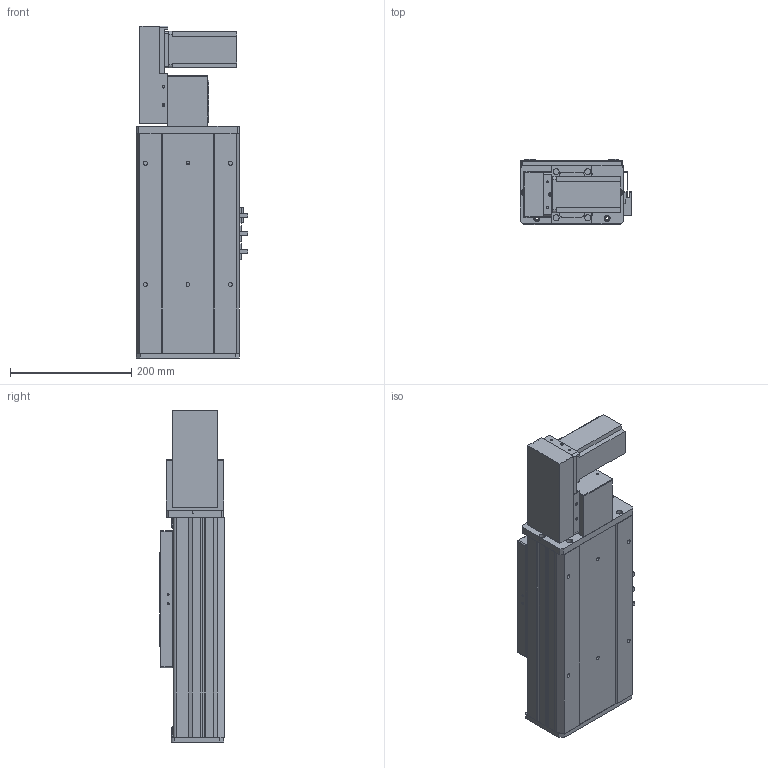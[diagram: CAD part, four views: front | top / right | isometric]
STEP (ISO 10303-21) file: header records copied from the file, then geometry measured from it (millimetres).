
FILE_DESCRIPTION (( 'STEP AP203' ), '1' );
FILE_NAME ('Y170CB-D105-S50-BL-P400W.STEP', '2020-02-20T00:59:15', ( '微软用户' ), ( '微软中国' ), 'SwSTEP 2.0', 'SolidWorks 2017', '' );
FILE_SCHEMA (( 'CONFIG_CONTROL_DESIGN' ));
Length unit declared in the file: millimetre
Products named in the file (18): 0B-萇儂楊擘啣; 0C--雄赽釱俋欶-170; san松下电机400不带刹车----; 70CB-詩湍--; Y70俋欶BR----; Y100-135俋离換覜ん--; 70CB-掛极-; Y170CB-陔俋离換覜結え---; --70CB --喘謫眊楊擘啣-; 70B喘謫眊----; 70CB-耜裔啣-; Y1埴倛裔; 70C--詩湍揤踡え-; B-源倛裔啣; Y170CB-D105-S50-BL-P400W; 70CB--耜裔; 17B-耜蚾蟀諉啣----; 70C-雄赽釱-奻-
Assembly tree (21 placements, depth 2):
  Y170CB-D105-S50-BL-P400W
    B-源倛裔啣
    17B-耜蚾蟀諉啣----
    0B-萇儂楊擘啣
    san松下电机400不带刹车----
    Y70俋欶BR----
    70CB-掛极-
    --70CB --喘謫眊楊擘啣-
    70CB-耜裔啣-  x2
    70C--詩湍揤踡え-  x2
    70CB--耜裔
    70C-雄赽釱-奻-
    0C--雄赽釱俋欶-170
    70CB-詩湍--
    Y100-135俋离換覜ん--  x3
    Y170CB-陔俋离換覜結え---
    70B喘謫眊----
    Y1埴倛裔
Bounding box: 183.5 x 107 x 547 mm (x, y, z)
Volume: 2797494.7 mm3; surface area: 979115.5 mm2
Topology: 21 solids, 21 shells, 967 faces, 2573 edges, 1706 vertices
Faces by surface type: cylinder 479, plane 464, cone 24
Entity records: 30568 total; most frequent: CARTESIAN_POINT 5556, DIRECTION 4966, ORIENTED_EDGE 4628, EDGE_CURVE 2314, AXIS2_PLACEMENT_3D 1804, VERTEX_POINT 1536, VECTOR 1358, LINE 1358
